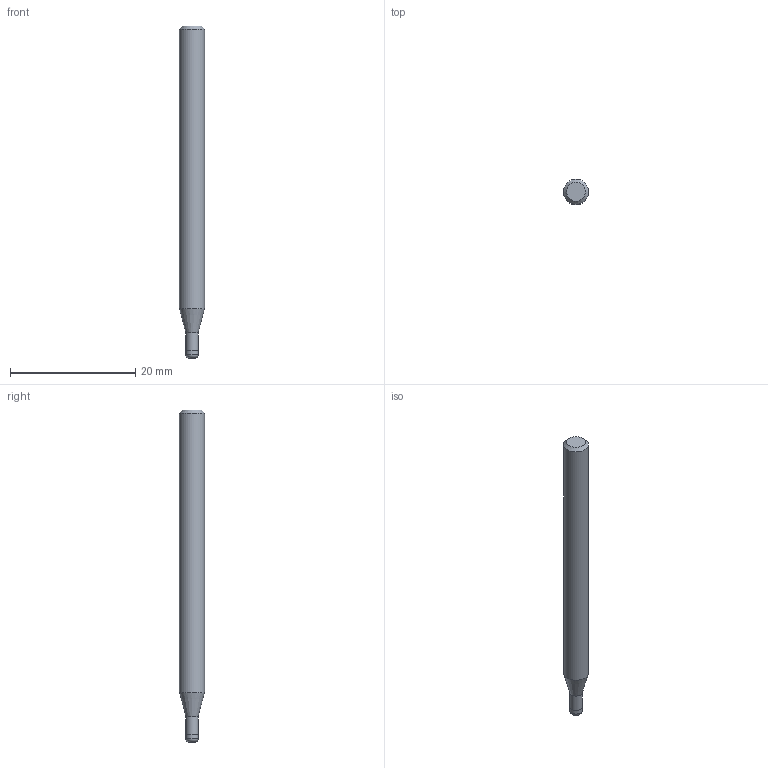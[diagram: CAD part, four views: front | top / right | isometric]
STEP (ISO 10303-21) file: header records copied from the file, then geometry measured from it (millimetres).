
FILE_DESCRIPTION((''),'2;1');
FILE_NAME('C:\Users\nsx150\AppData\Local\Temp\Mastercam 2021\LJSIDMOTM8\TEMP.step','2021-08-03T13:51:46',(''),(''),'STEP Write','Mastercam 2021 ... CNC Software, Inc.','');
FILE_SCHEMA(('AUTOMOTIVE_DESIGN'));
Length unit declared in the file: millimetre
Products named in the file (1): None
Bounding box: 4 x 4 x 53 mm (x, y, z)
Volume: 605.5 mm3; surface area: 645.5 mm2
Topology: 2 solids, 2 shells, 10 faces, 14 edges, 8 vertices
Faces by surface type: plane 4, cylinder 3, cone 2, torus 1
Full cylindrical faces by diameter (mm): 1.94 x1, 2 x1, 4 x1
Entity records: 232 total; most frequent: DIRECTION 40, CARTESIAN_POINT 28, AXIS2_PLACEMENT_3D 20, ORIENTED_EDGE 16, EDGE_LOOP 16, STYLED_ITEM 13, ADVANCED_FACE 10, FACE_BOUND 10
